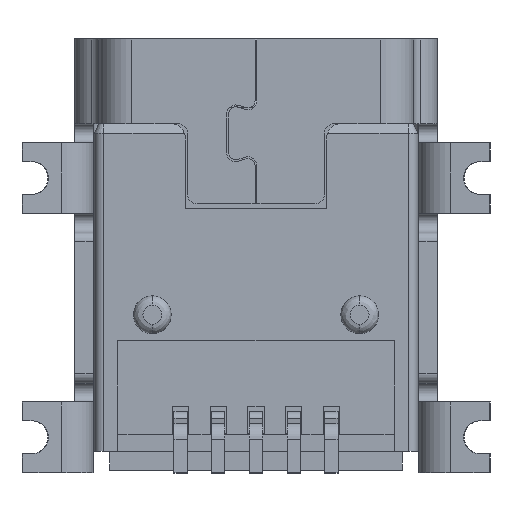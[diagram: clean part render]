
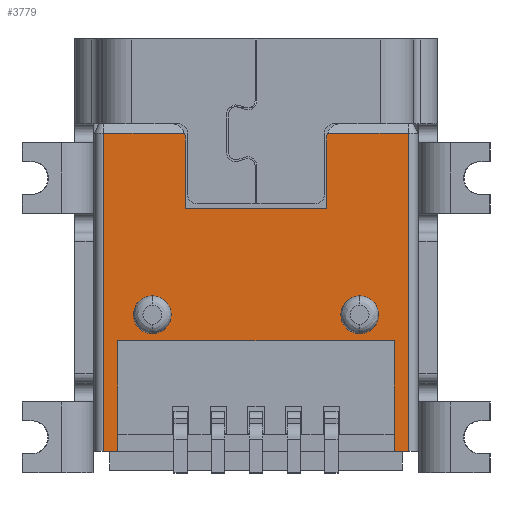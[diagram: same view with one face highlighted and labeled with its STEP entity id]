
A CAD part, front view. The second image highlights one B-rep face of the part: STEP entity #3779.
In plain terms, the highlighted planar face has unit normal (0, -1, 0).
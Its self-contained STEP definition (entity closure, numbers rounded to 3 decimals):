
#153=DIRECTION('',(1.,0.,0.));
#154=VECTOR('',#153,5.86);
#155=CARTESIAN_POINT('',(-2.93,0.,2.));
#156=LINE('',#155,#154);
#161=CARTESIAN_POINT('',(1.8,0.,6.3));
#162=DIRECTION('',(0.,1.,0.));
#163=DIRECTION('',(-1.,0.,0.));
#164=AXIS2_PLACEMENT_3D('',#161,#162,#163);
#166=DIRECTION('',(0.,0.,1.));
#167=VECTOR('',#166,2.35);
#168=CARTESIAN_POINT('',(2.93,0.,-0.35));
#169=LINE('',#168,#167);
#170=DIRECTION('',(0.,0.,-1.));
#171=VECTOR('',#170,2.35);
#172=CARTESIAN_POINT('',(-2.93,0.,2.));
#173=LINE('',#172,#171);
#174=CARTESIAN_POINT('',(-1.8,0.,6.3));
#175=DIRECTION('',(0.,1.,0.));
#176=DIRECTION('',(0.943,0.,0.333));
#177=AXIS2_PLACEMENT_3D('',#174,#175,#176);
#179=DIRECTION('',(0.,0.,1.));
#180=VECTOR('',#179,1.5);
#181=CARTESIAN_POINT('',(1.5,0.,4.8));
#182=LINE('',#181,#180);
#183=CARTESIAN_POINT('',(-2.2,0.,2.55));
#184=DIRECTION('',(0.,-1.,0.));
#185=DIRECTION('',(0.,0.,-1.));
#186=AXIS2_PLACEMENT_3D('',#183,#184,#185);
#188=CARTESIAN_POINT('',(-2.2,0.,2.55));
#189=DIRECTION('',(0.,-1.,0.));
#190=DIRECTION('',(0.,0.,1.));
#191=AXIS2_PLACEMENT_3D('',#188,#189,#190);
#193=CARTESIAN_POINT('',(2.2,0.,2.55));
#194=DIRECTION('',(0.,-1.,0.));
#195=DIRECTION('',(0.,0.,-1.));
#196=AXIS2_PLACEMENT_3D('',#193,#194,#195);
#198=CARTESIAN_POINT('',(2.2,0.,2.55));
#199=DIRECTION('',(0.,-1.,0.));
#200=DIRECTION('',(0.,0.,1.));
#201=AXIS2_PLACEMENT_3D('',#198,#199,#200);
#215=DIRECTION('',(-1.,0.,0.));
#216=VECTOR('',#215,3.);
#217=CARTESIAN_POINT('',(1.5,0.,4.8));
#218=LINE('',#217,#216);
#227=DIRECTION('',(0.,0.,1.));
#228=VECTOR('',#227,1.5);
#229=CARTESIAN_POINT('',(-1.5,0.,4.8));
#230=LINE('',#229,#228);
#248=DIRECTION('',(-1.,0.,0.));
#249=VECTOR('',#248,1.713);
#250=CARTESIAN_POINT('',(-1.517,0.,6.4));
#251=LINE('',#250,#249);
#299=DIRECTION('',(0.,0.,-1.));
#300=VECTOR('',#299,6.75);
#301=CARTESIAN_POINT('',(-3.23,0.,6.4));
#302=LINE('',#301,#300);
#365=DIRECTION('',(1.,0.,0.));
#366=VECTOR('',#365,0.3);
#367=CARTESIAN_POINT('',(-3.23,0.,-0.35));
#368=LINE('',#367,#366);
#381=DIRECTION('',(1.,0.,0.));
#382=VECTOR('',#381,0.3);
#383=CARTESIAN_POINT('',(2.93,0.,-0.35));
#384=LINE('',#383,#382);
#820=DIRECTION('',(0.,0.,1.));
#821=VECTOR('',#820,6.75);
#822=CARTESIAN_POINT('',(3.23,0.,-0.35));
#823=LINE('',#822,#821);
#845=DIRECTION('',(-1.,0.,0.));
#846=VECTOR('',#845,1.713);
#847=CARTESIAN_POINT('',(3.23,0.,6.4));
#848=LINE('',#847,#846);
#2835=CARTESIAN_POINT('',(-2.93,0.,-0.35));
#2836=VERTEX_POINT('',#2835);
#2837=CARTESIAN_POINT('',(-2.93,0.,2.));
#2838=VERTEX_POINT('',#2837);
#2849=CARTESIAN_POINT('',(2.93,0.,2.));
#2850=VERTEX_POINT('',#2849);
#2851=CARTESIAN_POINT('',(2.93,0.,-0.35));
#2852=VERTEX_POINT('',#2851);
#2873=CARTESIAN_POINT('',(1.5,0.,6.3));
#2874=CARTESIAN_POINT('',(1.517,0.,6.4));
#2875=VERTEX_POINT('',#2873);
#2876=VERTEX_POINT('',#2874);
#2877=CARTESIAN_POINT('',(3.23,0.,6.4));
#2878=VERTEX_POINT('',#2877);
#2879=CARTESIAN_POINT('',(3.23,0.,-0.35));
#2880=VERTEX_POINT('',#2879);
#2881=CARTESIAN_POINT('',(-3.23,0.,-0.35));
#2882=VERTEX_POINT('',#2881);
#2883=CARTESIAN_POINT('',(-3.23,0.,6.4));
#2884=VERTEX_POINT('',#2883);
#2885=CARTESIAN_POINT('',(-1.517,0.,6.4));
#2886=VERTEX_POINT('',#2885);
#2887=CARTESIAN_POINT('',(-1.5,0.,6.3));
#2888=VERTEX_POINT('',#2887);
#2889=CARTESIAN_POINT('',(-1.5,0.,4.8));
#2890=VERTEX_POINT('',#2889);
#2891=CARTESIAN_POINT('',(1.5,0.,4.8));
#2892=VERTEX_POINT('',#2891);
#2893=CARTESIAN_POINT('',(-2.2,0.,2.15));
#2894=CARTESIAN_POINT('',(-2.2,0.,2.95));
#2895=VERTEX_POINT('',#2893);
#2896=VERTEX_POINT('',#2894);
#2897=CARTESIAN_POINT('',(2.2,0.,2.15));
#2898=CARTESIAN_POINT('',(2.2,0.,2.95));
#2899=VERTEX_POINT('',#2897);
#2900=VERTEX_POINT('',#2898);
#3734=CARTESIAN_POINT('',(-3.23,0.,0.));
#3735=DIRECTION('',(0.,-1.,0.));
#3736=DIRECTION('',(1.,0.,0.));
#3737=AXIS2_PLACEMENT_3D('',#3734,#3735,#3736);
#3738=PLANE('',#3737);
#3740=ORIENTED_EDGE('',*,*,#3739,.T.);
#3742=ORIENTED_EDGE('',*,*,#3741,.F.);
#3744=ORIENTED_EDGE('',*,*,#3743,.F.);
#3746=ORIENTED_EDGE('',*,*,#3745,.F.);
#3748=ORIENTED_EDGE('',*,*,#3747,.T.);
#3749=ORIENTED_EDGE('',*,*,#3725,.F.);
#3750=ORIENTED_EDGE('',*,*,#3592,.T.);
#3752=ORIENTED_EDGE('',*,*,#3751,.F.);
#3754=ORIENTED_EDGE('',*,*,#3753,.F.);
#3756=ORIENTED_EDGE('',*,*,#3755,.F.);
#3758=ORIENTED_EDGE('',*,*,#3757,.T.);
#3760=ORIENTED_EDGE('',*,*,#3759,.F.);
#3762=ORIENTED_EDGE('',*,*,#3761,.F.);
#3764=ORIENTED_EDGE('',*,*,#3763,.T.);
#3765=EDGE_LOOP('',(#3740,#3742,#3744,#3746,#3748,#3749,#3750,#3752,#3754,#3756,
#3758,#3760,#3762,#3764));
#3766=FACE_OUTER_BOUND('',#3765,.F.);
#3768=ORIENTED_EDGE('',*,*,#3767,.T.);
#3770=ORIENTED_EDGE('',*,*,#3769,.T.);
#3771=EDGE_LOOP('',(#3768,#3770));
#3772=FACE_BOUND('',#3771,.F.);
#3774=ORIENTED_EDGE('',*,*,#3773,.T.);
#3776=ORIENTED_EDGE('',*,*,#3775,.T.);
#3777=EDGE_LOOP('',(#3774,#3776));
#3778=FACE_BOUND('',#3777,.F.);
#165=CIRCLE('',#164,0.3);
#178=CIRCLE('',#177,0.3);
#187=CIRCLE('',#186,0.4);
#192=CIRCLE('',#191,0.4);
#197=CIRCLE('',#196,0.4);
#202=CIRCLE('',#201,0.4);
#3592=EDGE_CURVE('',#2838,#2836,#173,.T.);
#3725=EDGE_CURVE('',#2838,#2850,#156,.T.);
#3739=EDGE_CURVE('',#2875,#2876,#165,.T.);
#3741=EDGE_CURVE('',#2878,#2876,#848,.T.);
#3743=EDGE_CURVE('',#2880,#2878,#823,.T.);
#3745=EDGE_CURVE('',#2852,#2880,#384,.T.);
#3747=EDGE_CURVE('',#2852,#2850,#169,.T.);
#3751=EDGE_CURVE('',#2882,#2836,#368,.T.);
#3753=EDGE_CURVE('',#2884,#2882,#302,.T.);
#3755=EDGE_CURVE('',#2886,#2884,#251,.T.);
#3757=EDGE_CURVE('',#2886,#2888,#178,.T.);
#3759=EDGE_CURVE('',#2890,#2888,#230,.T.);
#3761=EDGE_CURVE('',#2892,#2890,#218,.T.);
#3763=EDGE_CURVE('',#2892,#2875,#182,.T.);
#3767=EDGE_CURVE('',#2895,#2896,#187,.T.);
#3769=EDGE_CURVE('',#2896,#2895,#192,.T.);
#3773=EDGE_CURVE('',#2899,#2900,#197,.T.);
#3775=EDGE_CURVE('',#2900,#2899,#202,.T.);
#3779=ADVANCED_FACE('',(#3766,#3772,#3778),#3738,.T.);
